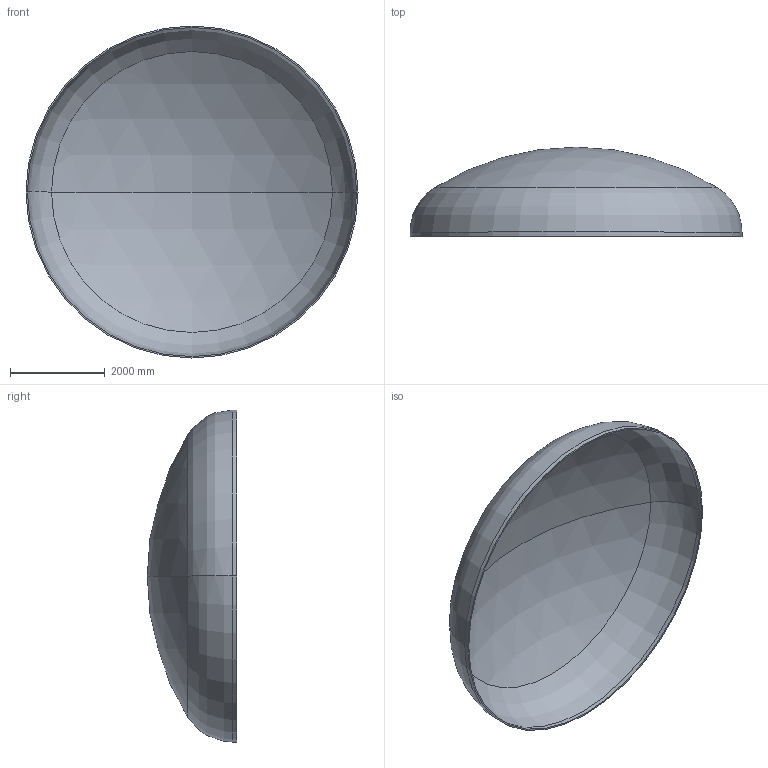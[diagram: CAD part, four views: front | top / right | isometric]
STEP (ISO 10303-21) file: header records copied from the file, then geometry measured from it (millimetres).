
FILE_DESCRIPTION (( 'STEP AP203' ), '1' );
FILE_NAME ('DIN 28013 Korbbogenform_-_Boden DIN 28013 - 7000 x 90 - I - s=29.step', '2016-07-04T10:46:24', ( '' ), ( '' ), 'SwSTEP 2.0', 'SolidWorks 2013', '' );
FILE_SCHEMA (( 'CONFIG_CONTROL_DESIGN' ));
Length unit declared in the file: millimetre
Products named in the file (1): DIN 28013 Korbbogenform_-_Boden DIN 28013 - 7000 x 90 - I - s=29
Bounding box: 7000 x 1883.18 x 7000 mm (x, y, z)
Volume: 1595060804.7 mm3; surface area: 110641012 mm2
Topology: 1 solids, 1 shells, 13 faces, 24 edges, 14 vertices
Faces by surface type: torus 4, cylinder 4, sphere 4, plane 1
Entity records: 407 total; most frequent: DIRECTION 72, CARTESIAN_POINT 52, ORIENTED_EDGE 48, AXIS2_PLACEMENT_3D 34, EDGE_CURVE 24, CIRCLE 20, EDGE_LOOP 14, VERTEX_POINT 14
